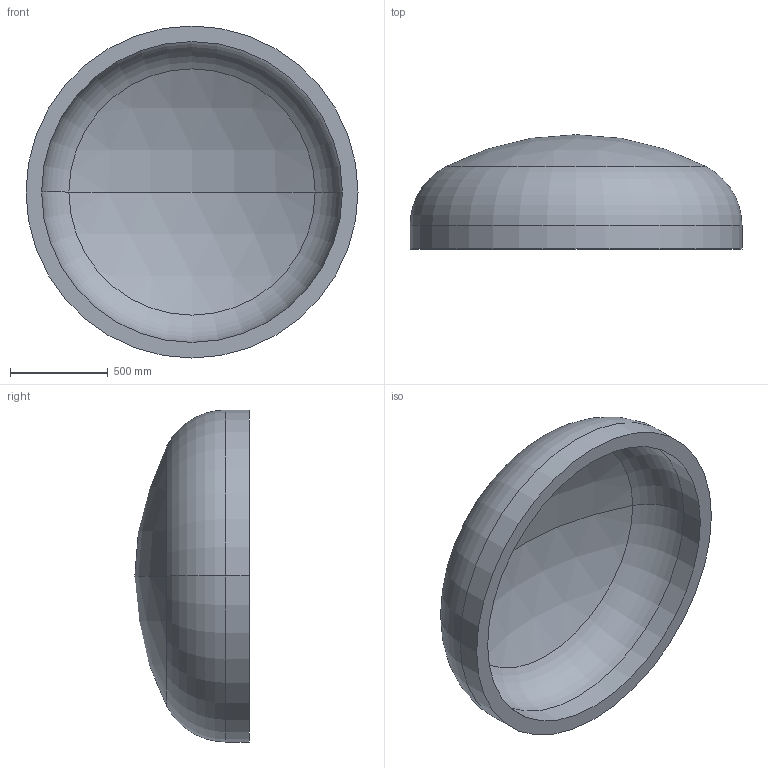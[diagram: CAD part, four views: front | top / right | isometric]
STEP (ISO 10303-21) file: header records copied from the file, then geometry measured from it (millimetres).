
FILE_DESCRIPTION (( 'STEP AP203' ), '1' );
FILE_NAME ('DIN 28013 Korbbogenform_-_Boden DIN 28013 - 1700 x 120 - I - s=80.step', '2016-07-01T12:03:08', ( '' ), ( '' ), 'SwSTEP 2.0', 'SolidWorks 2013', '' );
FILE_SCHEMA (( 'CONFIG_CONTROL_DESIGN' ));
Length unit declared in the file: millimetre
Products named in the file (1): DIN 28013 Korbbogenform_-_Boden DIN 28013 - 1700 x 120 - I - s=80
Bounding box: 1700 x 585.37 x 1700 mm (x, y, z)
Volume: 285224763.6 mm3; surface area: 7551171.8 mm2
Topology: 1 solids, 1 shells, 13 faces, 24 edges, 14 vertices
Faces by surface type: torus 4, cylinder 4, sphere 4, plane 1
Entity records: 407 total; most frequent: DIRECTION 72, CARTESIAN_POINT 52, ORIENTED_EDGE 48, AXIS2_PLACEMENT_3D 34, EDGE_CURVE 24, CIRCLE 20, VERTEX_POINT 14, EDGE_LOOP 14
